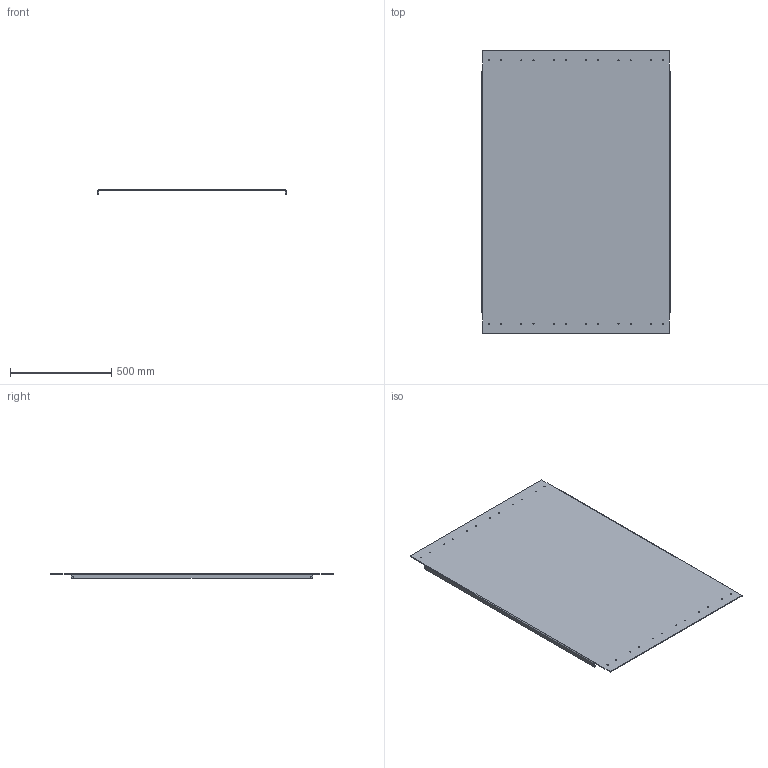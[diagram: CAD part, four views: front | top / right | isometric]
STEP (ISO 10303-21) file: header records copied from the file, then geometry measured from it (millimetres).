
FILE_DESCRIPTION(('HOOPS Exchange Step'),'2;1');
FILE_NAME('/private/var/mobile/Containers/Data/Application/E4481369-A8C6-45C6-A958-B1853E49479D/tmp/export/temp_export','2021-04-12T21:12:40+00:00',('mobile'),('Shapr3D Limited'),'HOOPS Exchange 2020.2','Shapr3D','Authorized');
FILE_SCHEMA( ('AP203_CONFIGURATION_CONTROLLED_3D_DESIGN_OF_MECHANICAL_PARTS_AND_ASSEMBLIES_MIM_LF') );
Length unit declared in the file: millimetre
Products named in the file (2): 0; /private/var/mobile/Containers/Data/Application/E4481369-A8C6-45C6-A958-B1853E49479D/tmp/56323DA2-5A95-4624-A73A-B0C265704ED9.tmp
Assembly tree (1 placements, depth 2):
  /private/var/mobile/Containers/Data/Application/E4481369-A8C6-45C6-A958-B1853E49479D/tmp/56323DA2-5A95-4624-A73A-B0C265704ED9.tmp
    0
Bounding box: 930 x 1400 x 24 mm (x, y, z)
Volume: 5375735.9 mm3; surface area: 2708623.3 mm2
Topology: 1 solids, 1 shells, 58 faces, 192 edges, 136 vertices
Faces by surface type: cylinder 40, plane 18
Full cylindrical faces by diameter (mm): 5.2 x28
Entity records: 2359 total; most frequent: DIRECTION 426, CARTESIAN_POINT 389, ORIENTED_EDGE 384, EDGE_CURVE 192, AXIS2_PLACEMENT_3D 173, VERTEX_POINT 136, EDGE_LOOP 114, FACE_BOUND 114
